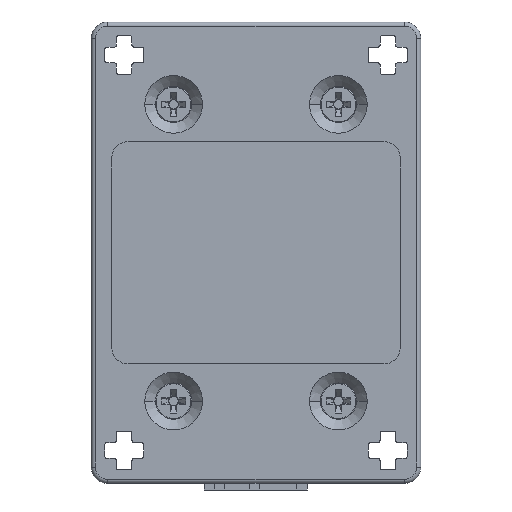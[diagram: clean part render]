
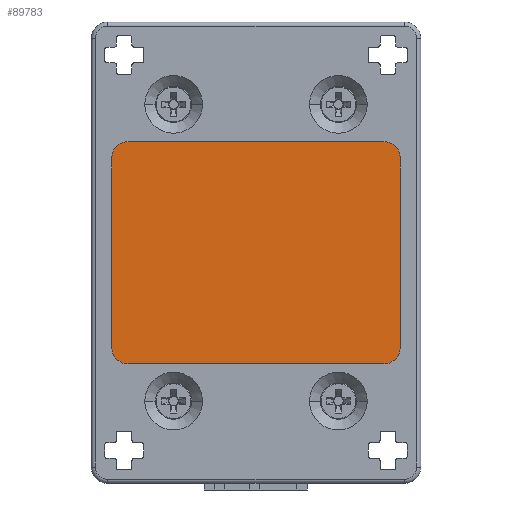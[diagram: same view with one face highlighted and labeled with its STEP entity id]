
A CAD part, front view. The second image highlights one B-rep face of the part: STEP entity #89783.
In plain terms, the highlighted planar face has unit normal (0, -1, 0).
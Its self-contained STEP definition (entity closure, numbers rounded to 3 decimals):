
#6419 = CARTESIAN_POINT ( 'NONE',  ( -35.5, 0., -16.5 ) ) ;
#6919 = VERTEX_POINT ( 'NONE', #29051 ) ;
#7139 = DIRECTION ( 'NONE',  ( -1., 0., 0. ) ) ;
#8640 = LINE ( 'NONE', #103083, #50588 ) ;
#9264 = ORIENTED_EDGE ( 'NONE', *, *, #96448, .T. ) ;
#10100 = VECTOR ( 'NONE', #91612, 1000. ) ;
#11760 = VECTOR ( 'NONE', #118863, 1000. ) ;
#15316 = EDGE_CURVE ( 'NONE', #6919, #67271, #39234, .T. ) ;
#15796 = LINE ( 'NONE', #108020, #25198 ) ;
#16884 = EDGE_CURVE ( 'NONE', #70061, #6919, #140980, .T. ) ;
#17924 = CIRCLE ( 'NONE', #58670, 2. ) ;
#19613 = EDGE_CURVE ( 'NONE', #47945, #114908, #17924, .T. ) ;
#24954 = CARTESIAN_POINT ( 'NONE',  ( -4.5, 0., -16.5 ) ) ;
#25198 = VECTOR ( 'NONE', #155647, 1000. ) ;
#29051 = CARTESIAN_POINT ( 'NONE',  ( -35.5, 0., -14.5 ) ) ;
#29494 = DIRECTION ( 'NONE',  ( 0., -1., 0. ) ) ;
#32268 = DIRECTION ( 'NONE',  ( 0., -1., 0. ) ) ;
#32757 = CARTESIAN_POINT ( 'NONE',  ( -2.5, 0., -16.5 ) ) ;
#34071 = CARTESIAN_POINT ( 'NONE',  ( -4.5, 0., -41.5 ) ) ;
#34538 = DIRECTION ( 'NONE',  ( 0., -1., 0. ) ) ;
#35594 = PLANE ( 'NONE',  #143112 ) ;
#39234 = CIRCLE ( 'NONE', #90461, 2. ) ;
#39479 = CIRCLE ( 'NONE', #43868, 2. ) ;
#40671 = EDGE_CURVE ( 'NONE', #90259, #70061, #39479, .T. ) ;
#43868 = AXIS2_PLACEMENT_3D ( 'NONE', #69479, #32268, #104382 ) ;
#46284 = DIRECTION ( 'NONE',  ( -1., 0., 0. ) ) ;
#47945 = VERTEX_POINT ( 'NONE', #65979 ) ;
#48912 = DIRECTION ( 'NONE',  ( -1., 0., 0. ) ) ;
#50588 = VECTOR ( 'NONE', #131387, 1000. ) ;
#57150 = ORIENTED_EDGE ( 'NONE', *, *, #15316, .T. ) ;
#57874 = CARTESIAN_POINT ( 'NONE',  ( -37.5, 0., -16.5 ) ) ;
#58489 = CARTESIAN_POINT ( 'NONE',  ( -35.5, 0., -39.5 ) ) ;
#58670 = AXIS2_PLACEMENT_3D ( 'NONE', #65656, #29494, #7139 ) ;
#59142 = EDGE_LOOP ( 'NONE', ( #96633, #136295, #57150, #9264, #137744, #105666, #140194, #63851 ) ) ;
#63851 = ORIENTED_EDGE ( 'NONE', *, *, #139828, .T. ) ;
#65656 = CARTESIAN_POINT ( 'NONE',  ( -4.5, 0., -39.5 ) ) ;
#65979 = CARTESIAN_POINT ( 'NONE',  ( -4.5, 0., -41.5 ) ) ;
#67271 = VERTEX_POINT ( 'NONE', #57874 ) ;
#68039 = DIRECTION ( 'NONE',  ( 1., 0., 0. ) ) ;
#69479 = CARTESIAN_POINT ( 'NONE',  ( -4.5, 0., -16.5 ) ) ;
#70061 = VERTEX_POINT ( 'NONE', #136501 ) ;
#72652 = AXIS2_PLACEMENT_3D ( 'NONE', #58489, #34538, #46284 ) ;
#75643 = EDGE_CURVE ( 'NONE', #76401, #47945, #144453, .T. ) ;
#76401 = VERTEX_POINT ( 'NONE', #120250 ) ;
#85552 = CARTESIAN_POINT ( 'NONE',  ( -2.5, 0., -39.5 ) ) ;
#89783 = ADVANCED_FACE ( 'NONE', ( #130747 ), #35594, .T. ) ;
#90259 = VERTEX_POINT ( 'NONE', #32757 ) ;
#90461 = AXIS2_PLACEMENT_3D ( 'NONE', #6419, #139940, #68039 ) ;
#90515 = CIRCLE ( 'NONE', #72652, 2. ) ;
#91612 = DIRECTION ( 'NONE',  ( -1., 0., 0. ) ) ;
#96448 = EDGE_CURVE ( 'NONE', #67271, #121316, #8640, .T. ) ;
#96633 = ORIENTED_EDGE ( 'NONE', *, *, #40671, .T. ) ;
#101689 = CARTESIAN_POINT ( 'NONE',  ( -4.5, 0., -14.5 ) ) ;
#103083 = CARTESIAN_POINT ( 'NONE',  ( -37.5, 0., -39.5 ) ) ;
#104382 = DIRECTION ( 'NONE',  ( -1., 0., 0. ) ) ;
#105666 = ORIENTED_EDGE ( 'NONE', *, *, #75643, .T. ) ;
#108020 = CARTESIAN_POINT ( 'NONE',  ( -2.5, 0., -39.5 ) ) ;
#114908 = VERTEX_POINT ( 'NONE', #85552 ) ;
#118863 = DIRECTION ( 'NONE',  ( 1., 0., 0. ) ) ;
#120250 = CARTESIAN_POINT ( 'NONE',  ( -35.5, 0., -41.5 ) ) ;
#121316 = VERTEX_POINT ( 'NONE', #138523 ) ;
#130747 = FACE_OUTER_BOUND ( 'NONE', #59142, .T. ) ;
#131080 = EDGE_CURVE ( 'NONE', #121316, #76401, #90515, .T. ) ;
#131387 = DIRECTION ( 'NONE',  ( 0., 0., -1. ) ) ;
#136295 = ORIENTED_EDGE ( 'NONE', *, *, #16884, .T. ) ;
#136501 = CARTESIAN_POINT ( 'NONE',  ( -4.5, 0., -14.5 ) ) ;
#137744 = ORIENTED_EDGE ( 'NONE', *, *, #131080, .T. ) ;
#138523 = CARTESIAN_POINT ( 'NONE',  ( -37.5, 0., -39.5 ) ) ;
#139828 = EDGE_CURVE ( 'NONE', #114908, #90259, #15796, .T. ) ;
#139940 = DIRECTION ( 'NONE',  ( 0., -1., 0. ) ) ;
#140194 = ORIENTED_EDGE ( 'NONE', *, *, #19613, .T. ) ;
#140980 = LINE ( 'NONE', #101689, #10100 ) ;
#143112 = AXIS2_PLACEMENT_3D ( 'NONE', #24954, #156868, #48912 ) ;
#144453 = LINE ( 'NONE', #34071, #11760 ) ;
#155647 = DIRECTION ( 'NONE',  ( 0., 0., 1. ) ) ;
#156868 = DIRECTION ( 'NONE',  ( 0., -1., 0. ) ) ;
